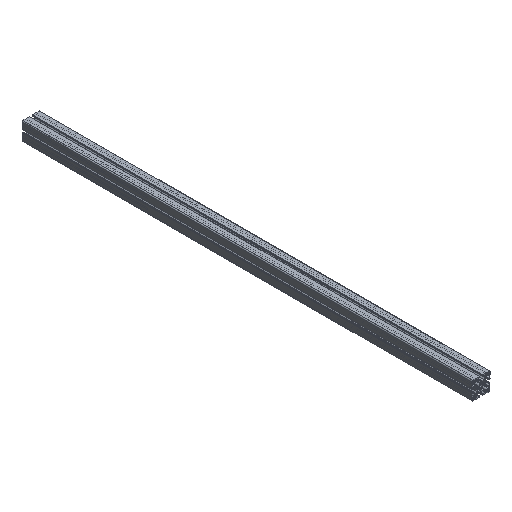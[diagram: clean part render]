
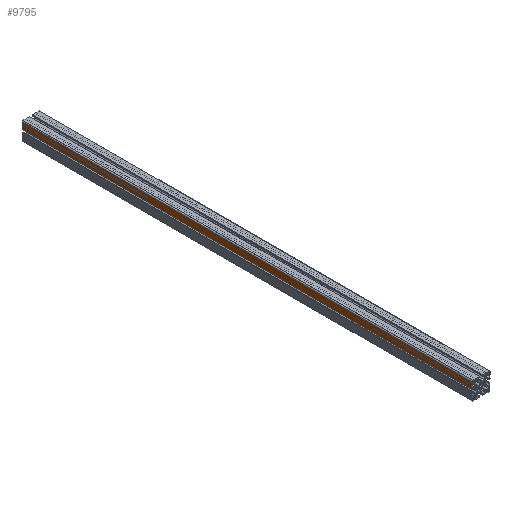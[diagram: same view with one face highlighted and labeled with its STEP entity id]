
A CAD part, isometric view. The second image highlights one B-rep face of the part: STEP entity #9795.
In plain terms, the highlighted planar face has unit normal (-1, 0, 0).
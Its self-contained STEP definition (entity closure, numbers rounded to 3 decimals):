
#568 = DIRECTION ( 'NONE',  ( 0., 0., 1. ) ) ;
#765 = VECTOR ( 'NONE', #3721, 1000. ) ;
#809 = CARTESIAN_POINT ( 'NONE',  ( -20., 500., 18. ) ) ;
#973 = EDGE_CURVE ( 'NONE', #9835, #5036, #1431, .T. ) ;
#1431 = LINE ( 'NONE', #2735, #8613 ) ;
#2735 = CARTESIAN_POINT ( 'NONE',  ( -20., -500., 3.375 ) ) ;
#2824 = LINE ( 'NONE', #9951, #7796 ) ;
#3092 = ORIENTED_EDGE ( 'NONE', *, *, #10993, .F. ) ;
#3512 = CARTESIAN_POINT ( 'NONE',  ( -20., 500., 3.375 ) ) ;
#3559 = LINE ( 'NONE', #9307, #765 ) ;
#3721 = DIRECTION ( 'NONE',  ( 0., -1., 0. ) ) ;
#4326 = EDGE_LOOP ( 'NONE', ( #8811, #7075, #3092, #10161 ) ) ;
#4340 = DIRECTION ( 'NONE',  ( 0., -1., 0. ) ) ;
#4567 = CARTESIAN_POINT ( 'NONE',  ( -20., 500., 3.375 ) ) ;
#5036 = VERTEX_POINT ( 'NONE', #7077 ) ;
#5229 = VERTEX_POINT ( 'NONE', #809 ) ;
#5308 = EDGE_CURVE ( 'NONE', #9172, #9835, #2824, .T. ) ;
#5514 = DIRECTION ( 'NONE',  ( 0., 0., -1. ) ) ;
#5844 = AXIS2_PLACEMENT_3D ( 'NONE', #4567, #11129, #5514 ) ;
#6326 = DIRECTION ( 'NONE',  ( 0., 0., 1. ) ) ;
#6417 = PLANE ( 'NONE',  #5844 ) ;
#7075 = ORIENTED_EDGE ( 'NONE', *, *, #7124, .F. ) ;
#7077 = CARTESIAN_POINT ( 'NONE',  ( -20., -500., 18. ) ) ;
#7124 = EDGE_CURVE ( 'NONE', #5229, #5036, #3559, .T. ) ;
#7796 = VECTOR ( 'NONE', #4340, 1000. ) ;
#8336 = CARTESIAN_POINT ( 'NONE',  ( -20., -500., 3.375 ) ) ;
#8613 = VECTOR ( 'NONE', #6326, 1000. ) ;
#8622 = FACE_OUTER_BOUND ( 'NONE', #4326, .T. ) ;
#8811 = ORIENTED_EDGE ( 'NONE', *, *, #973, .T. ) ;
#8957 = CARTESIAN_POINT ( 'NONE',  ( -20., 500., 3.375 ) ) ;
#9172 = VERTEX_POINT ( 'NONE', #3512 ) ;
#9307 = CARTESIAN_POINT ( 'NONE',  ( -20., 500., 18. ) ) ;
#9795 = ADVANCED_FACE ( 'NONE', ( #8622 ), #6417, .F. ) ;
#9835 = VERTEX_POINT ( 'NONE', #8336 ) ;
#9862 = LINE ( 'NONE', #8957, #10171 ) ;
#9951 = CARTESIAN_POINT ( 'NONE',  ( -20., 500., 3.375 ) ) ;
#10161 = ORIENTED_EDGE ( 'NONE', *, *, #5308, .T. ) ;
#10171 = VECTOR ( 'NONE', #568, 1000. ) ;
#10993 = EDGE_CURVE ( 'NONE', #9172, #5229, #9862, .T. ) ;
#11129 = DIRECTION ( 'NONE',  ( 1., 0., 0. ) ) ;
